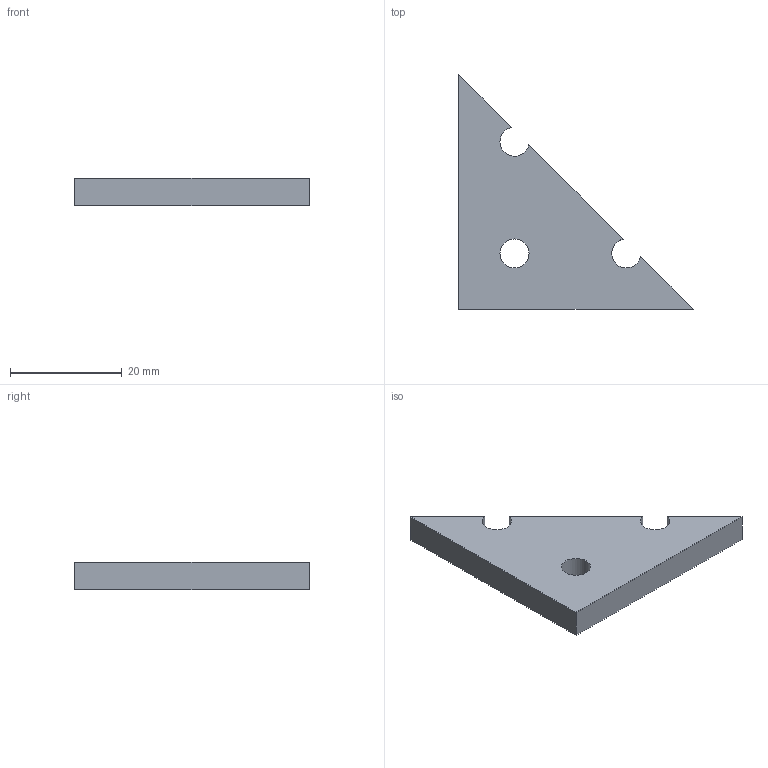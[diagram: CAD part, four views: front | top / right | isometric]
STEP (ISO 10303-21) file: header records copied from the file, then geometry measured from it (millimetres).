
FILE_DESCRIPTION(('Open CASCADE Model'),'2;1');
FILE_NAME('Open CASCADE Shape Model','2026-09-04T19:26:43',('Author'),( 'Open CASCADE'),'Open CASCADE STEP processor 7.9','Open CASCADE 7.9' ,'Unknown');
FILE_SCHEMA(('AUTOMOTIVE_DESIGN { 1 0 10303 214 1 1 1 1 }'));
Length unit declared in the file: millimetre
Products named in the file (1): COMPOUND
Bounding box: 42 x 42 x 5 mm (x, y, z)
Volume: 4127.9 mm3; surface area: 2517.8 mm2
Topology: 1 solids, 1 shells, 10 faces, 24 edges, 16 vertices
Faces by surface type: plane 7, cylinder 3
Full cylindrical faces by diameter (mm): 5.2 x1
Entity records: 628 total; most frequent: CARTESIAN_POINT 107, DIRECTION 92, LINE 52, VECTOR 52, ORIENTED_EDGE 48, PCURVE 48, DEFINITIONAL_REPRESENTATION 48, EDGE_CURVE 24
